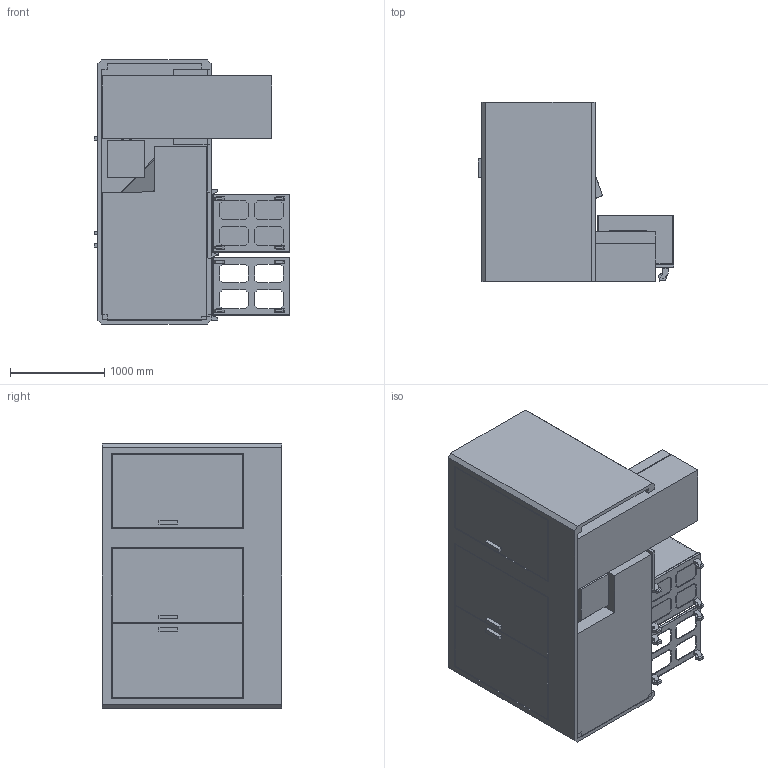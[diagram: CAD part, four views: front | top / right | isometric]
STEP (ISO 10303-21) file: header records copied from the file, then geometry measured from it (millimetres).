
FILE_DESCRIPTION(/* description */ (''),/* implementation_level */ '2;1');
FILE_NAME(/* name */ 'Codronic_Zelltest_1.stp',/* time_stamp */ '2025-11-26T08:55:12+01:00',/* author */ ('Sebastian.Bach-Heck'),/* organization */ (''),/* preprocessor_version */ 'ST-DEVELOPER v19.2',/* originating_system */ 'Autodesk Inventor 2023',/* authorisation */ '');
FILE_SCHEMA (('AUTOMOTIVE_DESIGN { 1 0 10303 214 3 1 1 }'));
Products named in the file (22): Codronic_Zelltest_1; KLT_Gutteile_gross; KLT_Schlechtteile; Palettenförderband; Fanuc - LR Mate-200iD; CKR_090_NN_1_1000_mm_MA10_001_006_001_00_SPIE; Rutschen; Liebinger Jet 3 UP Cabinet; Simatic IPC 477E 15zoll; Schaltschrank B800xT400xH800; Grundgestell; Keyence IV4 G500MA; Transportroller_max; Fanuc - R-30iB Plus Mate Open-Air Cabinet; Roboter-Fuss; Einhausung; Kamera_Picking; Palette_4680; Liebinger Jet 3 UP Head; Greifer 4680; Zellen-Aufnahme; Zelle 4680
Assembly tree (27 placements, depth 2):
  Codronic_Zelltest_1
    KLT_Gutteile_gross  x2
    KLT_Schlechtteile
    Palettenförderband
    Fanuc - LR Mate-200iD
    CKR_090_NN_1_1000_mm_MA10_001_006_001_00_SPIE
    Rutschen
    Liebinger Jet 3 UP Cabinet  x2
    Simatic IPC 477E 15zoll
    Schaltschrank B800xT400xH800
    Grundgestell
    Keyence IV4 G500MA
    Transportroller_max  x2
    Fanuc - R-30iB Plus Mate Open-Air Cabinet
    Roboter-Fuss
    Einhausung
    Kamera_Picking
    Liebinger Jet 3 UP Head  x2
    Palette_4680
    Greifer 4680
    Zellen-Aufnahme  x2
    Zelle 4680  x2
Bounding box: 2076.8 x 1900 x 2800 mm (x, y, z)
Topology: 209 solids, 253 shells, 9802 faces, 23309 edges, 14922 vertices
Faces by surface type: plane 4750, bspline 2204, cylinder 2040, torus 513, cone 213, sphere 82
Full cylindrical faces by diameter (mm): 0.508 x2, 0.665 x2, 0.76 x1, 0.84 x1, 1.9 x1, 2.1 x1, 2.459 x20, 2.6 x144, 2.9 x8, 3 x184, 3.2 x4, 3.3 x4, 3.4 x168, 3.5 x8, 3.6 x2, 3.8 x144, 4 x8, 4.134 x4, 4.4 x4, 4.5 x9, 4.9 x4, 4.917 x6, 5 x5, 5.1 x4, 5.5 x28, 6 x2, 6.6 x4, 6.647 x2, 7 x2, 8 x17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
Entity records: 413999 total; most frequent: CARTESIAN_POINT 207928, ORIENTED_EDGE 42817, DIRECTION 38530, EDGE_CURVE 21469, VERTEX_POINT 13784, AXIS2_PLACEMENT_3D 13586, LINE 11358, VECTOR 11358
